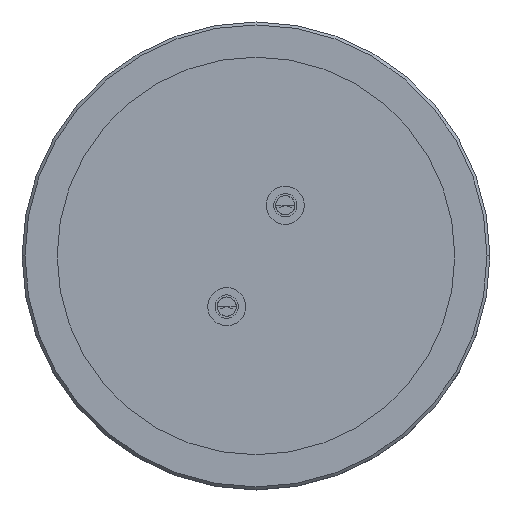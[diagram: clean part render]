
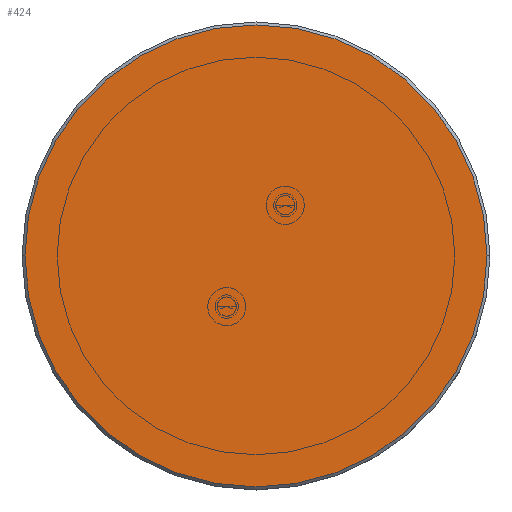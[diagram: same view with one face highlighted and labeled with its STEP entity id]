
A CAD part, top view. The second image highlights one B-rep face of the part: STEP entity #424.
In plain terms, the highlighted planar face has unit normal (0, 0, 1).
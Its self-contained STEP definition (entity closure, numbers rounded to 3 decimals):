
#1=CARTESIAN_POINT('',(0.,0.,15.));
#2=DIRECTION('',(0.,0.,-1.));
#3=DIRECTION('',(-1.,0.,0.));
#4=AXIS2_PLACEMENT_3D('',#1,#2,#3);
#6=CARTESIAN_POINT('',(0.,0.,15.));
#7=DIRECTION('',(0.,0.,-1.));
#8=DIRECTION('',(0.,1.,0.));
#9=AXIS2_PLACEMENT_3D('',#6,#7,#8);
#11=CARTESIAN_POINT('',(0.,0.,15.));
#12=DIRECTION('',(0.,0.,-1.));
#13=DIRECTION('',(1.,0.,0.));
#14=AXIS2_PLACEMENT_3D('',#11,#12,#13);
#16=CARTESIAN_POINT('',(0.,0.,15.));
#17=DIRECTION('',(0.,0.,-1.));
#18=DIRECTION('',(0.,-1.,0.));
#19=AXIS2_PLACEMENT_3D('',#16,#17,#18);
#317=CARTESIAN_POINT('',(0.,39.5,15.));
#318=CARTESIAN_POINT('',(39.5,0.,15.));
#319=VERTEX_POINT('',#317);
#320=VERTEX_POINT('',#318);
#321=CARTESIAN_POINT('',(-39.5,0.,15.));
#322=VERTEX_POINT('',#321);
#323=CARTESIAN_POINT('',(0.,-39.5,15.));
#324=VERTEX_POINT('',#323);
#409=CARTESIAN_POINT('',(0.,0.,15.));
#410=DIRECTION('',(0.,0.,1.));
#411=DIRECTION('',(1.,0.,0.));
#412=AXIS2_PLACEMENT_3D('',#409,#410,#411);
#413=PLANE('',#412);
#415=ORIENTED_EDGE('',*,*,#414,.T.);
#417=ORIENTED_EDGE('',*,*,#416,.T.);
#419=ORIENTED_EDGE('',*,*,#418,.T.);
#421=ORIENTED_EDGE('',*,*,#420,.T.);
#422=EDGE_LOOP('',(#415,#417,#419,#421));
#423=FACE_OUTER_BOUND('',#422,.F.);
#424=ADVANCED_FACE('',(#423),#413,.T.);
#5=CIRCLE('',#4,39.5);
#10=CIRCLE('',#9,39.5);
#15=CIRCLE('',#14,39.5);
#20=CIRCLE('',#19,39.5);
#414=EDGE_CURVE('',#322,#319,#5,.T.);
#416=EDGE_CURVE('',#319,#320,#10,.T.);
#418=EDGE_CURVE('',#320,#324,#15,.T.);
#420=EDGE_CURVE('',#324,#322,#20,.T.);
